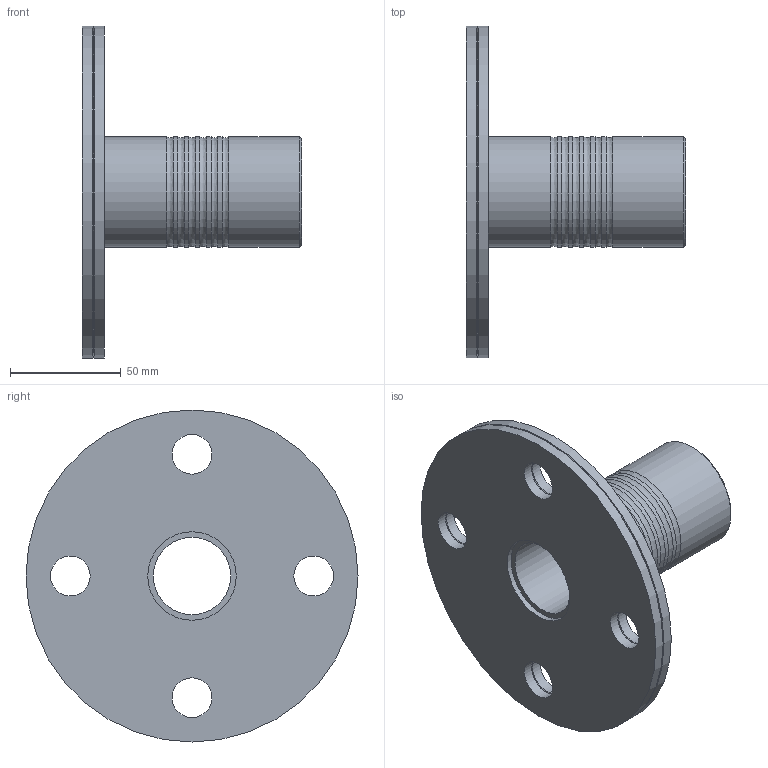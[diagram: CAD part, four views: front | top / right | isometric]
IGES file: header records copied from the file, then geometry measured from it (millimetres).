
Global section: file name: 0723060500150_182306050015_0723060500150A.ipt; native system: Autodesk Inventor 2015; preprocessor: unknown; author: KIM; date: 20170606.172340; units: millimetre
Bounding box: 99 x 150 x 150 mm (x, y, z)
Volume: 236037.7 mm3; surface area: 65243.4 mm2
Topology: 1 solids, 1 shells, 42 faces, 123 edges, 86 vertices
Faces by surface type: revolution 25, cylinder 9, plane 5, cone 3
Full cylindrical faces by diameter (mm): 50 x7, 150 x2
